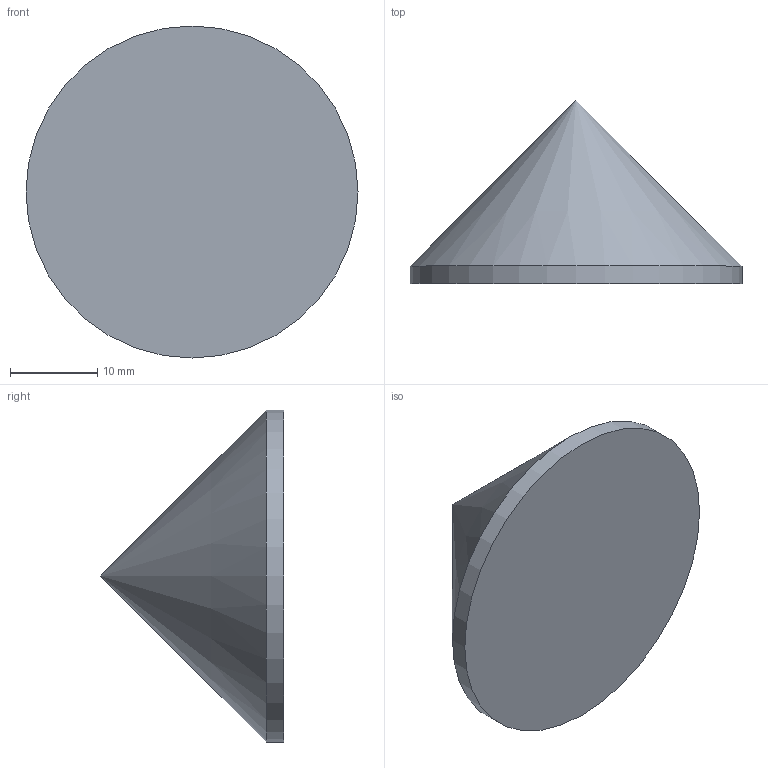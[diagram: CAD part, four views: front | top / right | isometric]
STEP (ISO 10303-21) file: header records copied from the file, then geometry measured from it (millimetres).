
FILE_DESCRIPTION(/* description */ (''),/* implementation_level */ '2;1');
FILE_NAME(/* name */ 'C:\Users\strothej\Documents\ActualDocuments\MicroscopeParts\TwoPhotonSystem\ScanningMechanics\v27\Drawings\Filter_Holder_Baffle.stp',/* time_stamp */ '2017-06-05T11:19:58-07:00',/* author */ ('strothej'),/* organization */ (''),/* preprocessor_version */ 'ST-DEVELOPER v16.1',/* originating_system */ 'Autodesk Inventor 2016',/* authorisation */ '');
FILE_SCHEMA (('AUTOMOTIVE_DESIGN { 1 0 10303 214 3 1 1 }'));
Length unit declared in the file: millimetre
Products named in the file (1): Filter_Holder_Baffle
Bounding box: 38 x 21 x 38 mm (x, y, z)
Volume: 9451 mm3; surface area: 2976.8 mm2
Topology: 1 solids, 1 shells, 3 faces, 5 edges, 3 vertices
Faces by surface type: cylinder 1, cone 1, plane 1
Full cylindrical faces by diameter (mm): 38 x1
Entity records: 78 total; most frequent: DIRECTION 12, CARTESIAN_POINT 8, AXIS2_PLACEMENT_3D 6, EDGE_LOOP 4, ORIENTED_EDGE 4, FACE_OUTER_BOUND 3, ADVANCED_FACE 3, CIRCLE 2
